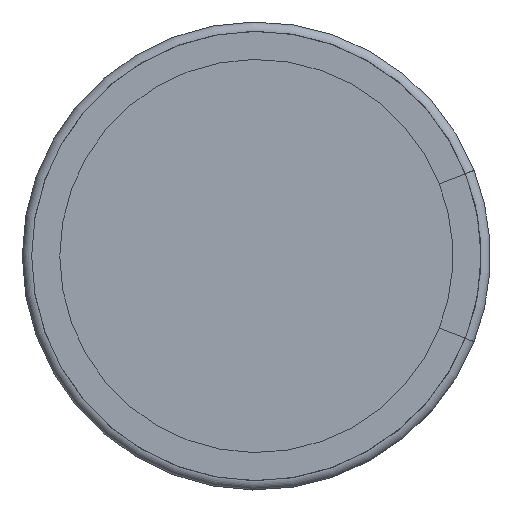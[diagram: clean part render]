
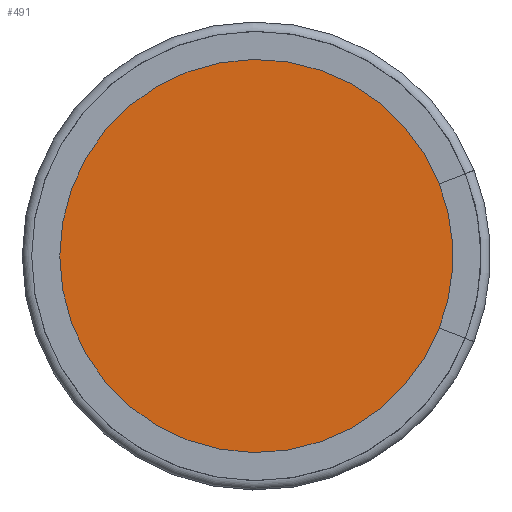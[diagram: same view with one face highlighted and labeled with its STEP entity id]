
A CAD part, front view. The second image highlights one B-rep face of the part: STEP entity #491.
In plain terms, the highlighted planar face has unit normal (0, -1, 0).
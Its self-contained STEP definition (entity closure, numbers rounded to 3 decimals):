
#417=FACE_OUTER_BOUND('',#731,.T.);
#491=ADVANCED_FACE('',(#417),#570,.T.);
#570=PLANE('',#1628);
#731=EDGE_LOOP('',(#833));
#833=ORIENTED_EDGE('',*,*,#1321,.T.);
#1201=VERTEX_POINT('',#2317);
#1321=EDGE_CURVE('',#1201,#1201,#1503,.T.);
#1503=CIRCLE('',#1627,2.4);
#1627=AXIS2_PLACEMENT_3D('',#2316,#1850,#1851);
#1628=AXIS2_PLACEMENT_3D('',#2318,#1852,#1853);
#1850=DIRECTION('',(0.,-1.,0.));
#1851=DIRECTION('',(0.,0.,-1.));
#1852=DIRECTION('',(0.,-1.,0.));
#1853=DIRECTION('',(0.,0.,-1.));
#2316=CARTESIAN_POINT('',(0.,0.1,0.));
#2317=CARTESIAN_POINT('',(0.,0.1,-2.4));
#2318=CARTESIAN_POINT('',(0.,0.1,0.));
